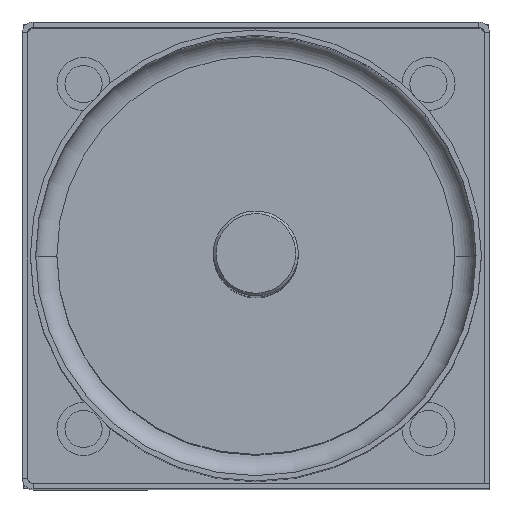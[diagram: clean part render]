
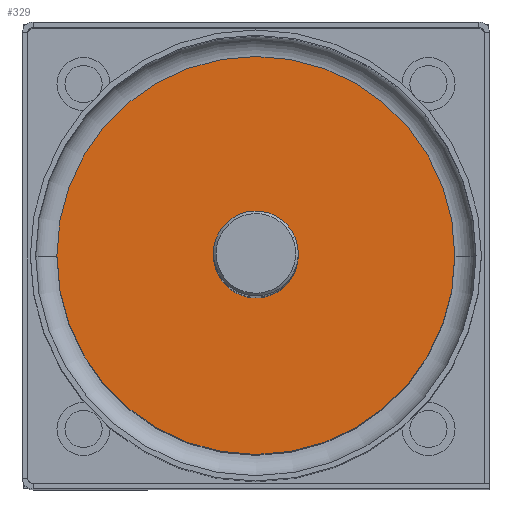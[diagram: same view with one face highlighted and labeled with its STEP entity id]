
A CAD part, top view. The second image highlights one B-rep face of the part: STEP entity #329.
In plain terms, the highlighted planar face has unit normal (0, 0, 1) as drawn and (0, 1, 0) by its records, which use the part's own axes.
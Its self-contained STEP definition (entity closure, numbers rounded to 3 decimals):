
#329 = ADVANCED_FACE ( 'NONE', ( #1273, #6654 ), #1904, .T. ) ;
#662 = CARTESIAN_POINT ( 'NONE',  ( 0., 0., 0. ) ) ;
#682 = EDGE_CURVE ( 'NONE', #4863, #7197, #7585, .T. ) ;
#763 = ORIENTED_EDGE ( 'NONE', *, *, #4487, .T. ) ;
#1217 = DIRECTION ( 'NONE',  ( 0., 1., 0. ) ) ;
#1273 = FACE_BOUND ( 'NONE', #1888, .T. ) ;
#1349 = CARTESIAN_POINT ( 'NONE',  ( 0., 0., 0. ) ) ;
#1428 = DIRECTION ( 'NONE',  ( -1., 0., 0. ) ) ;
#1662 = DIRECTION ( 'NONE',  ( 0., 1., 0. ) ) ;
#1754 = AXIS2_PLACEMENT_3D ( 'NONE', #6695, #2944, #4153 ) ;
#1778 = DIRECTION ( 'NONE',  ( 0., 1., 0. ) ) ;
#1888 = EDGE_LOOP ( 'NONE', ( #4941, #6019 ) ) ;
#1904 = PLANE ( 'NONE',  #1754 ) ;
#2120 = ORIENTED_EDGE ( 'NONE', *, *, #6611, .T. ) ;
#2223 = DIRECTION ( 'NONE',  ( -1., 0., 0. ) ) ;
#2547 = EDGE_LOOP ( 'NONE', ( #2120, #763 ) ) ;
#2602 = AXIS2_PLACEMENT_3D ( 'NONE', #3988, #1662, #2223 ) ;
#2927 = AXIS2_PLACEMENT_3D ( 'NONE', #1349, #3749, #1428 ) ;
#2944 = DIRECTION ( 'NONE',  ( 0., 1., 0. ) ) ;
#2953 = CARTESIAN_POINT ( 'NONE',  ( -37.5, 0., 0. ) ) ;
#3693 = EDGE_CURVE ( 'NONE', #7197, #4863, #6297, .T. ) ;
#3745 = CARTESIAN_POINT ( 'NONE',  ( 37.5, 0., 0. ) ) ;
#3749 = DIRECTION ( 'NONE',  ( 0., 1., 0. ) ) ;
#3841 = CIRCLE ( 'NONE', #4220, 37.5 ) ;
#3988 = CARTESIAN_POINT ( 'NONE',  ( 0., 0., 0. ) ) ;
#4084 = CARTESIAN_POINT ( 'NONE',  ( 8., 0., 0. ) ) ;
#4141 = DIRECTION ( 'NONE',  ( -1., 0., 0. ) ) ;
#4153 = DIRECTION ( 'NONE',  ( -1., 0., 0. ) ) ;
#4203 = AXIS2_PLACEMENT_3D ( 'NONE', #662, #1778, #4141 ) ;
#4220 = AXIS2_PLACEMENT_3D ( 'NONE', #7266, #1217, #5455 ) ;
#4487 = EDGE_CURVE ( 'NONE', #6000, #6205, #3841, .T. ) ;
#4863 = VERTEX_POINT ( 'NONE', #4084 ) ;
#4941 = ORIENTED_EDGE ( 'NONE', *, *, #682, .F. ) ;
#5455 = DIRECTION ( 'NONE',  ( -1., 0., 0. ) ) ;
#5829 = CARTESIAN_POINT ( 'NONE',  ( -8., 0., 0. ) ) ;
#6000 = VERTEX_POINT ( 'NONE', #3745 ) ;
#6019 = ORIENTED_EDGE ( 'NONE', *, *, #3693, .F. ) ;
#6108 = CIRCLE ( 'NONE', #2602, 37.5 ) ;
#6205 = VERTEX_POINT ( 'NONE', #2953 ) ;
#6297 = CIRCLE ( 'NONE', #2927, 8. ) ;
#6611 = EDGE_CURVE ( 'NONE', #6205, #6000, #6108, .T. ) ;
#6654 = FACE_OUTER_BOUND ( 'NONE', #2547, .T. ) ;
#6695 = CARTESIAN_POINT ( 'NONE',  ( 0., 0., 0. ) ) ;
#7197 = VERTEX_POINT ( 'NONE', #5829 ) ;
#7266 = CARTESIAN_POINT ( 'NONE',  ( 0., 0., 0. ) ) ;
#7585 = CIRCLE ( 'NONE', #4203, 8. ) ;
